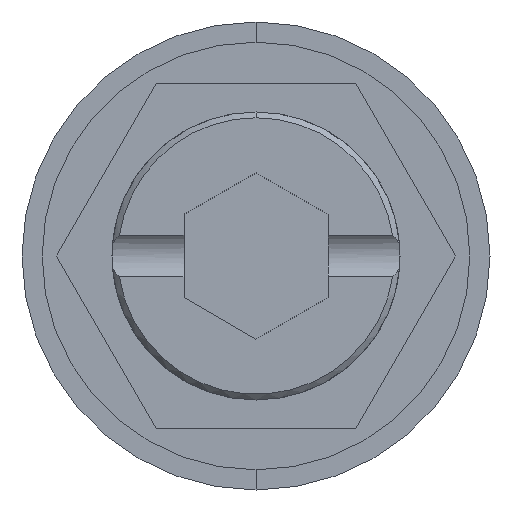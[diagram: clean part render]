
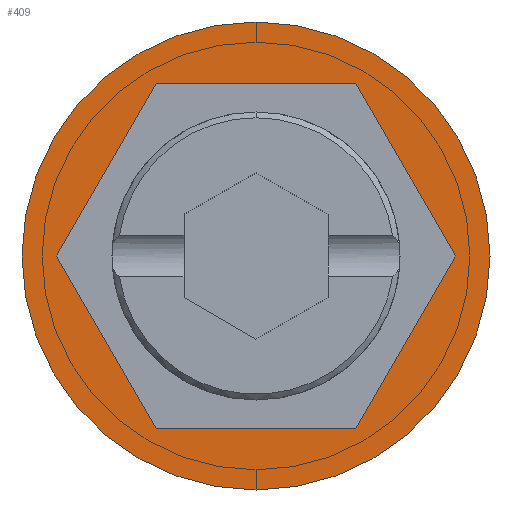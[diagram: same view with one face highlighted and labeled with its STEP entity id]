
A CAD part, front view. The second image highlights one B-rep face of the part: STEP entity #409.
In plain terms, the highlighted planar face has unit normal (0, -1, 0).
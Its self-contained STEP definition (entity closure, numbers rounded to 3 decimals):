
#18 = DIRECTION ( 'NONE',  ( 0., -1., 0. ) ) ;
#62 = EDGE_CURVE ( 'NONE', #2039, #2160, #1183, .T. ) ;
#76 = VECTOR ( 'NONE', #1221, 1000. ) ;
#98 = LINE ( 'NONE', #1305, #76 ) ;
#147 = CIRCLE ( 'NONE', #1524, 8.125 ) ;
#178 = VECTOR ( 'NONE', #416, 1000. ) ;
#183 = LINE ( 'NONE', #424, #178 ) ;
#206 = EDGE_CURVE ( 'NONE', #733, #1723, #1086, .T. ) ;
#241 = CARTESIAN_POINT ( 'NONE',  ( 3.464, 0., 6. ) ) ;
#353 = VERTEX_POINT ( 'NONE', #2027 ) ;
#381 = CARTESIAN_POINT ( 'NONE',  ( 0., 0., 8.125 ) ) ;
#409 = ADVANCED_FACE ( 'NONE', ( #944, #948 ), #2124, .T. ) ;
#416 = DIRECTION ( 'NONE',  ( -1., 0., 0. ) ) ;
#424 = CARTESIAN_POINT ( 'NONE',  ( 3.464, 0., 6. ) ) ;
#433 = EDGE_LOOP ( 'NONE', ( #2072, #2068, #2066, #2060, #2058, #2057 ) ) ;
#469 = EDGE_LOOP ( 'NONE', ( #2036, #2032 ) ) ;
#473 = CARTESIAN_POINT ( 'NONE',  ( 3.464, 0., -6. ) ) ;
#532 = VECTOR ( 'NONE', #953, 1000. ) ;
#535 = LINE ( 'NONE', #958, #532 ) ;
#538 = DIRECTION ( 'NONE',  ( 0.5, 0., 0.866 ) ) ;
#618 = CARTESIAN_POINT ( 'NONE',  ( -3.464, 0., -6. ) ) ;
#641 = AXIS2_PLACEMENT_3D ( 'NONE', #2140, #18, #2165 ) ;
#673 = EDGE_CURVE ( 'NONE', #1723, #1237, #781, .T. ) ;
#697 = DIRECTION ( 'NONE',  ( 0., 0., -1. ) ) ;
#733 = VERTEX_POINT ( 'NONE', #1560 ) ;
#754 = CARTESIAN_POINT ( 'NONE',  ( -3.464, 0., 6. ) ) ;
#758 = DIRECTION ( 'NONE',  ( 0., -1., 0. ) ) ;
#778 = CARTESIAN_POINT ( 'NONE',  ( 0., 0., -8.125 ) ) ;
#781 = LINE ( 'NONE', #1586, #807 ) ;
#807 = VECTOR ( 'NONE', #1585, 1000. ) ;
#859 = CARTESIAN_POINT ( 'NONE',  ( 3.464, 0., -6. ) ) ;
#907 = DIRECTION ( 'NONE',  ( 0.5, 0., -0.866 ) ) ;
#944 = FACE_BOUND ( 'NONE', #433, .T. ) ;
#948 = FACE_OUTER_BOUND ( 'NONE', #469, .T. ) ;
#953 = DIRECTION ( 'NONE',  ( -0.5, 0., -0.866 ) ) ;
#958 = CARTESIAN_POINT ( 'NONE',  ( -3.464, 0., 6. ) ) ;
#1060 = VECTOR ( 'NONE', #907, 1000. ) ;
#1086 = LINE ( 'NONE', #1616, #1060 ) ;
#1167 = EDGE_CURVE ( 'NONE', #1287, #733, #535, .T. ) ;
#1183 = CIRCLE ( 'NONE', #1355, 8.125 ) ;
#1196 = CARTESIAN_POINT ( 'NONE',  ( 0., 0., 0. ) ) ;
#1221 = DIRECTION ( 'NONE',  ( -0.5, 0., 0.866 ) ) ;
#1237 = VERTEX_POINT ( 'NONE', #859 ) ;
#1287 = VERTEX_POINT ( 'NONE', #754 ) ;
#1305 = CARTESIAN_POINT ( 'NONE',  ( 6.928, 0., 0. ) ) ;
#1355 = AXIS2_PLACEMENT_3D ( 'NONE', #1196, #758, #697 ) ;
#1487 = VERTEX_POINT ( 'NONE', #241 ) ;
#1524 = AXIS2_PLACEMENT_3D ( 'NONE', #1857, #1848, #1840 ) ;
#1560 = CARTESIAN_POINT ( 'NONE',  ( -6.928, 0., 0. ) ) ;
#1585 = DIRECTION ( 'NONE',  ( 1., 0., 0. ) ) ;
#1586 = CARTESIAN_POINT ( 'NONE',  ( -3.464, 0., -6. ) ) ;
#1616 = CARTESIAN_POINT ( 'NONE',  ( -6.928, 0., 0. ) ) ;
#1702 = EDGE_CURVE ( 'NONE', #1487, #1287, #183, .T. ) ;
#1723 = VERTEX_POINT ( 'NONE', #618 ) ;
#1773 = EDGE_CURVE ( 'NONE', #2160, #2039, #147, .T. ) ;
#1840 = DIRECTION ( 'NONE',  ( 0., 0., -1. ) ) ;
#1848 = DIRECTION ( 'NONE',  ( 0., -1., 0. ) ) ;
#1856 = EDGE_CURVE ( 'NONE', #353, #1487, #98, .T. ) ;
#1857 = CARTESIAN_POINT ( 'NONE',  ( 0., 0., 0. ) ) ;
#1999 = VECTOR ( 'NONE', #538, 1000. ) ;
#2027 = CARTESIAN_POINT ( 'NONE',  ( 6.928, 0., 0. ) ) ;
#2032 = ORIENTED_EDGE ( 'NONE', *, *, #62, .T. ) ;
#2036 = ORIENTED_EDGE ( 'NONE', *, *, #1773, .T. ) ;
#2039 = VERTEX_POINT ( 'NONE', #381 ) ;
#2057 = ORIENTED_EDGE ( 'NONE', *, *, #2138, .F. ) ;
#2058 = ORIENTED_EDGE ( 'NONE', *, *, #1856, .F. ) ;
#2060 = ORIENTED_EDGE ( 'NONE', *, *, #1702, .F. ) ;
#2066 = ORIENTED_EDGE ( 'NONE', *, *, #1167, .F. ) ;
#2068 = ORIENTED_EDGE ( 'NONE', *, *, #206, .F. ) ;
#2072 = ORIENTED_EDGE ( 'NONE', *, *, #673, .F. ) ;
#2124 = PLANE ( 'NONE',  #641 ) ;
#2138 = EDGE_CURVE ( 'NONE', #1237, #353, #2167, .T. ) ;
#2140 = CARTESIAN_POINT ( 'NONE',  ( 0., 0., 0. ) ) ;
#2160 = VERTEX_POINT ( 'NONE', #778 ) ;
#2165 = DIRECTION ( 'NONE',  ( 0., 0., -1. ) ) ;
#2167 = LINE ( 'NONE', #473, #1999 ) ;
